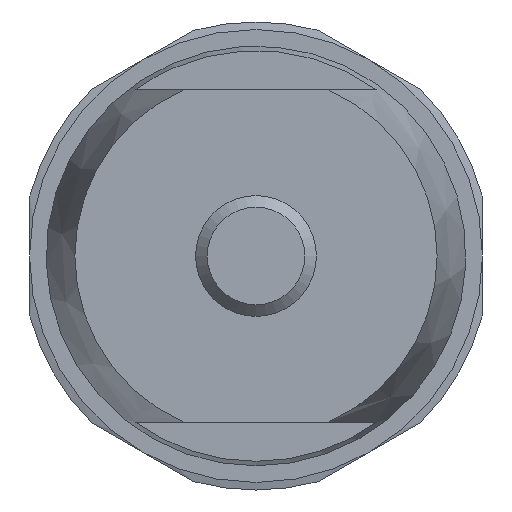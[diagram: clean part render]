
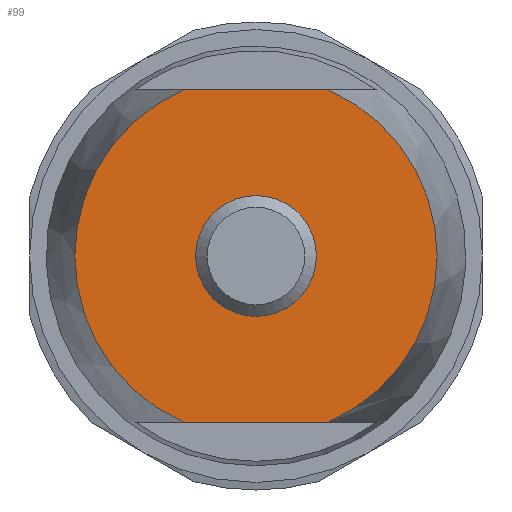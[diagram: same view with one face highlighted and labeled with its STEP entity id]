
A CAD part, front view. The second image highlights one B-rep face of the part: STEP entity #99.
In plain terms, the highlighted planar face has unit normal (0, -1, 0).
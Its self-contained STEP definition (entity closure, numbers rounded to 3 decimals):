
#99 = ADVANCED_FACE( '', ( #176, #177 ), #178, .F. );
#176 = FACE_BOUND( '', #286, .T. );
#177 = FACE_OUTER_BOUND( '', #287, .T. );
#178 = PLANE( '', #288 );
#286 = EDGE_LOOP( '', ( #518 ) );
#287 = EDGE_LOOP( '', ( #519, #520, #521, #522 ) );
#288 = AXIS2_PLACEMENT_3D( '', #523, #524, #525 );
#518 = ORIENTED_EDGE( '', *, *, #704, .T. );
#519 = ORIENTED_EDGE( '', *, *, #690, .F. );
#520 = ORIENTED_EDGE( '', *, *, #681, .T. );
#521 = ORIENTED_EDGE( '', *, *, #757, .F. );
#522 = ORIENTED_EDGE( '', *, *, #685, .T. );
#523 = CARTESIAN_POINT( '', ( 12., 8.5, 0. ) );
#524 = DIRECTION( '', ( 0., 1., 0. ) );
#525 = DIRECTION( '', ( 0., 0., 1. ) );
#681 = EDGE_CURVE( '', #778, #779, #780, .T. );
#685 = EDGE_CURVE( '', #787, #785, #788, .T. );
#690 = EDGE_CURVE( '', #778, #785, #796, .T. );
#704 = EDGE_CURVE( '', #820, #820, #821, .T. );
#757 = EDGE_CURVE( '', #787, #779, #909, .T. );
#778 = VERTEX_POINT( '', #1003 );
#779 = VERTEX_POINT( '', #1004 );
#780 = CIRCLE( '', #1005, 12. );
#785 = VERTEX_POINT( '', #1017 );
#787 = VERTEX_POINT( '', #1026 );
#788 = CIRCLE( '', #1027, 12. );
#796 = LINE( '', #1049, #1050 );
#820 = VERTEX_POINT( '', #1091 );
#821 = CIRCLE( '', #1092, 4. );
#909 = LINE( '', #1255, #1256 );
#1003 = CARTESIAN_POINT( '', ( 4.796, 8.5, -11. ) );
#1004 = CARTESIAN_POINT( '', ( 4.796, 8.5, 11. ) );
#1005 = AXIS2_PLACEMENT_3D( '', #1344, #1345, #1346 );
#1017 = CARTESIAN_POINT( '', ( -4.796, 8.5, -11. ) );
#1026 = CARTESIAN_POINT( '', ( -4.796, 8.5, 11. ) );
#1027 = AXIS2_PLACEMENT_3D( '', #1350, #1351, #1352 );
#1049 = CARTESIAN_POINT( '', ( 12., 8.5, -11. ) );
#1050 = VECTOR( '', #1359, 1000. );
#1091 = CARTESIAN_POINT( '', ( 0., 8.5, 4. ) );
#1092 = AXIS2_PLACEMENT_3D( '', #1377, #1378, #1379 );
#1255 = CARTESIAN_POINT( '', ( 12., 8.5, 11. ) );
#1256 = VECTOR( '', #1446, 1000. );
#1344 = CARTESIAN_POINT( '', ( 0., 8.5, 0. ) );
#1345 = DIRECTION( '', ( 0., -1., 0. ) );
#1346 = DIRECTION( '', ( 0., 0., -1. ) );
#1350 = CARTESIAN_POINT( '', ( 0., 8.5, 0. ) );
#1351 = DIRECTION( '', ( 0., -1., 0. ) );
#1352 = DIRECTION( '', ( 0., 0., -1. ) );
#1359 = DIRECTION( '', ( -1., 0., 0. ) );
#1377 = CARTESIAN_POINT( '', ( 0., 8.5, 0. ) );
#1378 = DIRECTION( '', ( 0., 1., 0. ) );
#1379 = DIRECTION( '', ( 0., 0., 1. ) );
#1446 = DIRECTION( '', ( 1., 0., 0. ) );
